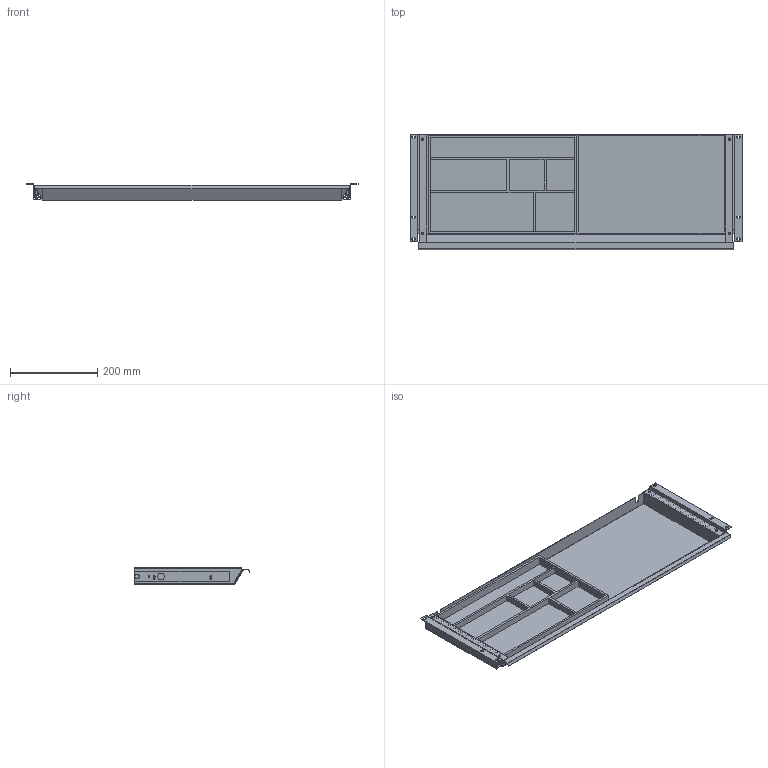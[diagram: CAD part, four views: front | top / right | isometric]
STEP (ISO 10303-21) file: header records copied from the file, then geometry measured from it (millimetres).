
FILE_DESCRIPTION( ( 'STEP AP214' ), '1' );
FILE_NAME( 'C:/Users/KOSH/Desktop/New folder/9309822.stp', '2022-01-27T11:19:34', ( '' ), ( '' ), ' ', 'PARTsolutions', ' ' );
FILE_SCHEMA( ( 'AUTOMOTIVE_DESIGN { 1 0 10303 214 1 1 1 1 }' ) );
Length unit declared in the file: millimetre
Products named in the file (12): 9309822; _outer sheet_21; _ka1_7; _ka2_15; _ka3_11; _tray_26; _outer sheet_r_22; _ka1_r_10; _ka2_r_18; _ka3_r_14; _tray_1_27; _tray_2_28
Assembly tree (11 placements, depth 2):
  9309822
    _outer sheet_21
    _ka1_7
    _ka2_15
    _ka3_11
    _tray_26
    _outer sheet_r_22
    _ka1_r_10
    _ka2_r_18
    _ka3_r_14
    _tray_1_27
    _tray_2_28
Bounding box: 759.6 x 264.47 x 38.4 mm (x, y, z)
Volume: 990901.8 mm3; surface area: 1035531.1 mm2
Topology: 11 solids, 11 shells, 368 faces, 1018 edges, 684 vertices
Faces by surface type: plane 286, cylinder 82
Full cylindrical faces by diameter (mm): 3.5 x10, 4.5 x4, 5.2 x4, 5.5 x4, 5.9 x2, 10 x2, 15.5 x2
Entity records: 14614 total; most frequent: CARTESIAN_POINT 2010, ORIENTED_EDGE 1936, DIRECTION 1892, EDGE_CURVE 968, LINE 804, VECTOR 804, VERTEX_POINT 662, AXIS2_PLACEMENT_3D 544
